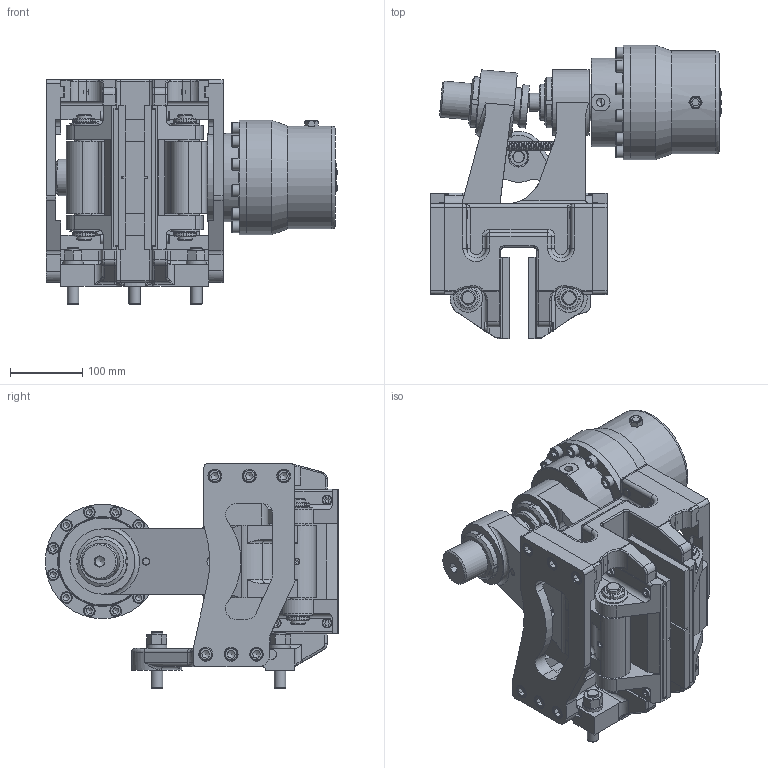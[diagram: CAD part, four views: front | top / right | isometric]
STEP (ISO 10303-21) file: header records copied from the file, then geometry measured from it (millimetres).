
FILE_DESCRIPTION(/* description */ ('','CAx-IF Rec.Pracs.---Representation and Presentation of Product Manufacturing Information (PMI)---4.0---2014-10-13'),/* implementation_level */ '2;1');
FILE_NAME(/* name */ 'X:\INVENTOR\DISEGNI\19_Pinze\STEP x Sito\OLEO-NEGATIVE\19_46_064_04 POT-N064_25,4.stp',/* time_stamp */ '2018-10-25T11:46:29+02:00',/* author */ ('stefano'),/* organization */ (''),/* preprocessor_version */ 'ST-DEVELOPER v17',/* originating_system */ 'Autodesk Inventor 2018',/* authorisation */ '');
FILE_SCHEMA (('AP242_MANAGED_MODEL_BASED_3D_ENGINEERING_MIM_LF { 1 0 10303 442 1 1 4 }'));
Products named in the file (1): 19_46_064_04 POT-N064_25,4_Substitute_3
Bounding box: 402.3 x 405 x 310 mm (x, y, z)
Volume: 10209489.8 mm3; surface area: 1183181.6 mm2
Topology: 1 solids, 1 shells, 1809 faces, 4981 edges, 3233 vertices
Faces by surface type: plane 892, cylinder 511, cone 177, torus 174, bspline 35, sphere 20
Full cylindrical faces by diameter (mm): 1.8 x2, 2.5 x1, 4.917 x1, 5 x1, 7.4 x2, 7.5 x2, 7.6 x3, 8 x9, 8.376 x1, 8.5 x8, 8.917 x2, 9 x2, 9.188 x1, 10 x3, 10.106 x3, 10.5 x5, 11.445 x2, 12 x14, 12.5 x12, 13 x8, 13.157 x1, 13.5 x8, 14 x1, 16 x18, 16.5 x4, 17 x3, 18 x13, 19 x12, 19.5 x11, 20 x14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
Entity records: 67875 total; most frequent: CARTESIAN_POINT 20284, ORIENTED_EDGE 9818, DIRECTION 9794, EDGE_CURVE 4909, AXIS2_PLACEMENT_3D 3762, VERTEX_POINT 3233, LINE 2270, VECTOR 2270
